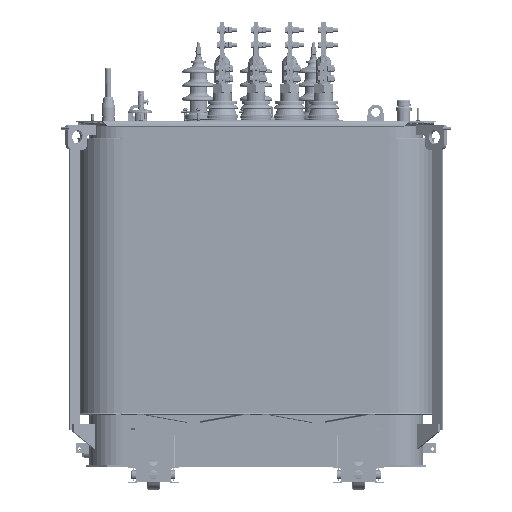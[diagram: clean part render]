
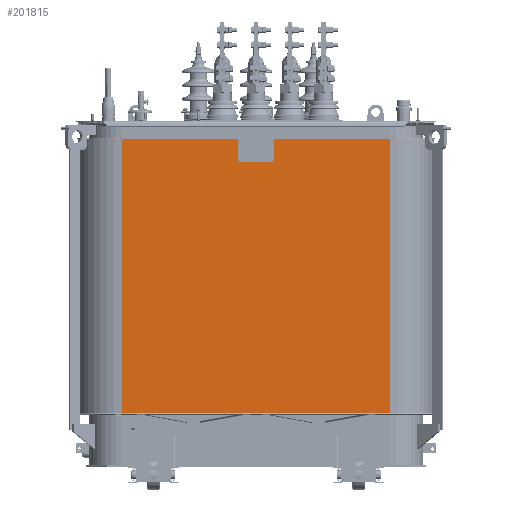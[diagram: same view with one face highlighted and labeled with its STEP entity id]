
A CAD part, front view. The second image highlights one B-rep face of the part: STEP entity #201815.
In plain terms, the highlighted planar face has unit normal (0, 1, 0).
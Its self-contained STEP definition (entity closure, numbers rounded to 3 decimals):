
#23238=FACE_OUTER_BOUND('',#35375,.T.);
#35375=EDGE_LOOP('',(#175269,#175270,#175271,#175272));
#50267=LINE('',#406487,#65175);
#50268=LINE('',#406489,#65176);
#50269=LINE('',#406491,#65177);
#50270=LINE('',#406492,#65178);
#65175=VECTOR('',#266751,10.);
#65176=VECTOR('',#266752,10.);
#65177=VECTOR('',#266753,10.);
#65178=VECTOR('',#266754,10.);
#90903=VERTEX_POINT('',#406485);
#90904=VERTEX_POINT('',#406486);
#90905=VERTEX_POINT('',#406488);
#90906=VERTEX_POINT('',#406490);
#119029=EDGE_CURVE('',#90903,#90904,#50267,.T.);
#119030=EDGE_CURVE('',#90903,#90905,#50268,.T.);
#119031=EDGE_CURVE('',#90905,#90906,#50269,.T.);
#119032=EDGE_CURVE('',#90904,#90906,#50270,.T.);
#175269=ORIENTED_EDGE('',*,*,#119029,.F.);
#175270=ORIENTED_EDGE('',*,*,#119030,.T.);
#175271=ORIENTED_EDGE('',*,*,#119031,.T.);
#175272=ORIENTED_EDGE('',*,*,#119032,.F.);
#180575=PLANE('',#218567);
#201815=ADVANCED_FACE('',(#23238),#180575,.F.);
#218567=AXIS2_PLACEMENT_3D('',#406484,#266749,#266750);
#266749=DIRECTION('center_axis',(0.,-1.,0.));
#266750=DIRECTION('ref_axis',(-1.,0.,0.));
#266751=DIRECTION('',(-1.,0.,0.));
#266752=DIRECTION('',(0.,0.,-1.));
#266753=DIRECTION('',(-1.,0.,0.));
#266754=DIRECTION('',(0.,0.,-1.));
#406484=CARTESIAN_POINT('Origin',(537.,-548.498,662.275));
#406485=CARTESIAN_POINT('',(537.,-548.498,662.275));
#406486=CARTESIAN_POINT('',(-536.,-548.498,662.275));
#406487=CARTESIAN_POINT('',(537.,-548.498,662.275));
#406488=CARTESIAN_POINT('',(537.,-548.498,-437.725));
#406489=CARTESIAN_POINT('',(537.,-548.498,662.275));
#406490=CARTESIAN_POINT('',(-536.,-548.498,-437.725));
#406491=CARTESIAN_POINT('',(537.,-548.498,-437.725));
#406492=CARTESIAN_POINT('',(-536.,-548.498,662.275));
